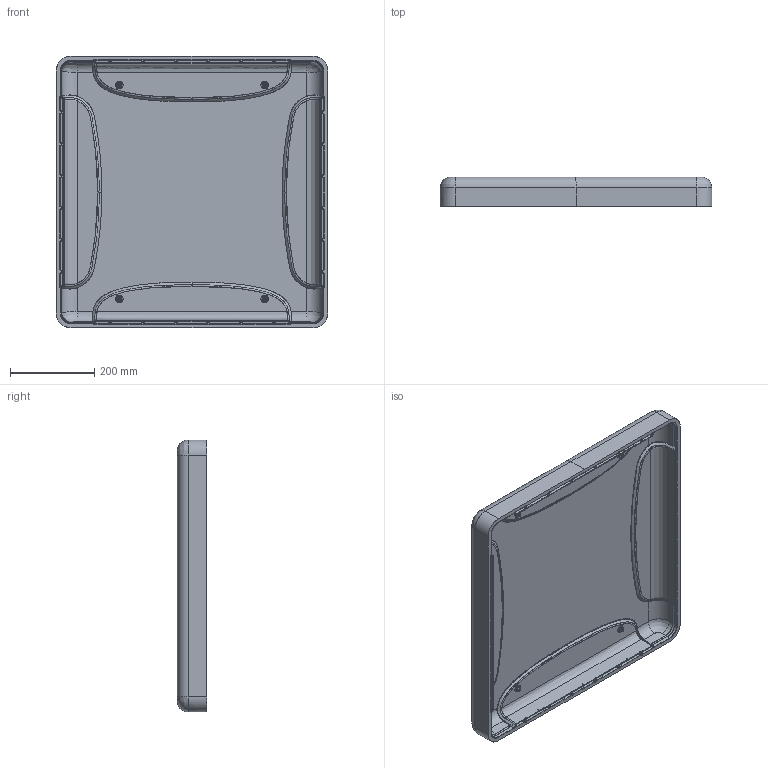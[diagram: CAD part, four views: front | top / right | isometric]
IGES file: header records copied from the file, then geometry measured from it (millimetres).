
Start section: SolidWorks IGES file using analytic representation for surfaces
Global section: file name: Z:\Share\NANUK\Solidworks\3D\Cases\970\4 - 3D FILES\4 - INNER SURFACES\970_Top_INNER_SURFACE_IGES.IGS; native system: SolidWorks 2018; preprocessor: SolidWorks 2018; author: scharria; date: 200218.150757; units: inch
Bounding box: 645.84 x 69.64 x 645.84 mm (x, y, z)
Surface area: 1110964.4 mm2 (no closed solid volume)
Topology: 0 solids, 0 shells, 1622 faces, 17608 edges, 17471 vertices
Faces by surface type: bspline 1232, revolution 390
